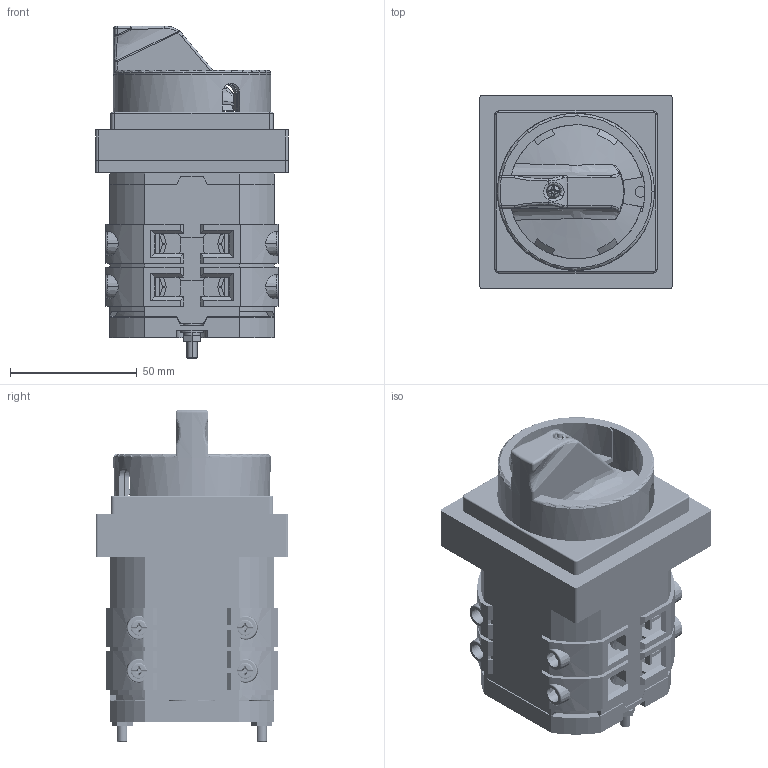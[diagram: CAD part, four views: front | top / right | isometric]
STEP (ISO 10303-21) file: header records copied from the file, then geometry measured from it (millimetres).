
FILE_DESCRIPTION (( 'STEP AP214' ), '1' );
FILE_NAME ('4G40,63,80-XXXX-U-S6,S25 2ê.STEP', '2023-02-15T11:04:56', ( '' ), ( '' ), 'SwSTEP 2.0', 'SolidWorks 2018', '' );
FILE_SCHEMA (( 'AUTOMOTIVE_DESIGN' ));
Length unit declared in the file: millimetre
Products named in the file (1): 4G40,63,80-XXXX-U-S6,S25 2ê
Bounding box: 76 x 76 x 131 mm (x, y, z)
Volume: 339578.2 mm3; surface area: 158323.4 mm2
Topology: 59 solids, 59 shells, 3731 faces, 9769 edges, 6192 vertices
Faces by surface type: plane 2088, cylinder 1304, torus 157, cone 120, bspline 49, sphere 13
Entity records: 218262 total; most frequent: CARTESIAN_POINT 85607, ORIENTED_EDGE 19520, DIRECTION 18461, EDGE_CURVE 9760, AXIS2_PLACEMENT_3D 6221, VERTEX_POINT 6192, VECTOR 6019, LINE 6019
